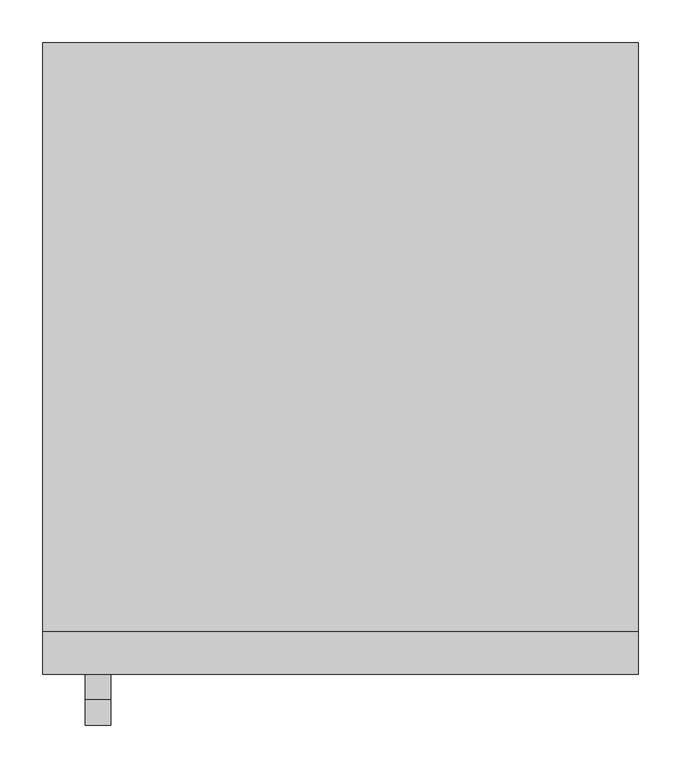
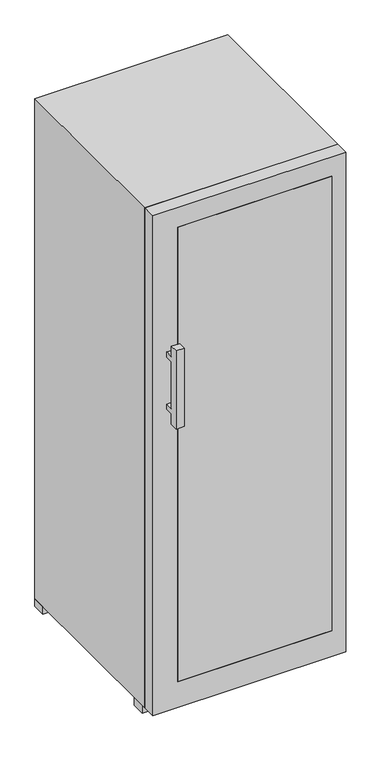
"""IFC4 building model written with IfcOpenShell, lengths in millimetres: proxy geometry, WTes 5972_136 : WTes 5972."""

from ifc_helpers import new_model, si_unit, point, frame, frame_2d, origin, place, context, project, spatial, polyline, circle_curve, trimmed, segment, composite_curve, outline, extrude, faceted_brep, source, transform, mapped, element, save


def specialty_equipment_a312c650(model_context):
    return source(origin(), model_context, "Body", "SolidModel", [
        extrude(outline(polyline([(-349.3194708, -79.8345306), (-349.3194708, -107.3345306), (-349.3194708, -721.8345306), (-910.0, -721.8345306), (-910.0, -79.8345306), (-349.3194708, -79.8345306)]), holes=[polyline([(-820.0080455, -107.3345306), (-880.0, -107.3345306), (-880.0, -700.5304175), (-845.0080455, -700.5304175), (-820.0080455, -700.5304175), (-820.0080455, -107.3345306)]), polyline([(-804.3194708, -700.5304175), (-740.0080455, -700.5304175), (-740.0080455, -107.3345306), (-804.3194708, -107.3345306), (-804.3194708, -700.5304175)]), polyline([(-724.3194708, -700.5304175), (-660.0080455, -700.5304175), (-660.0080455, -107.3345306), (-724.3194708, -107.3345306), (-724.3194708, -700.5304175)]), polyline([(-644.3194708, -700.5304175), (-575.0080455, -700.5304175), (-575.0080455, -107.3345306), (-644.3194708, -107.3345306), (-644.3194708, -700.5304175)]), polyline([(-379.3194708, -107.3345306), (-476.8194708, -107.3345306), (-476.8194708, -700.5304175), (-454.5302256, -700.5304175), (-379.3194708, -700.5304175), (-379.3194708, -107.3345306)]), polyline([(-559.3194708, -700.5304175), (-492.5080455, -700.5304175), (-492.5080455, -107.3345306), (-559.3194708, -107.3345306), (-559.3194708, -700.5304175)])]), frame((0.0, 0.0, 986.7540054), z_axis=(0.0, 0.0, 1.0), x_axis=(1.0, 0.0, 0.0)), (0.0, 0.0, 1.0), 21.7895763),
        extrude(outline(polyline([(-349.3194708, -79.8345306), (-349.3194708, -107.3345306), (-349.3194708, -721.8345306), (-910.0, -721.8345306), (-910.0, -79.8345306), (-349.3194708, -79.8345306)]), holes=[polyline([(-820.0080455, -107.3345306), (-880.0, -107.3345306), (-880.0, -700.5304175), (-845.0080455, -700.5304175), (-820.0080455, -700.5304175), (-820.0080455, -107.3345306)]), polyline([(-804.3194708, -700.5304175), (-740.0080455, -700.5304175), (-740.0080455, -107.3345306), (-804.3194708, -107.3345306), (-804.3194708, -700.5304175)]), polyline([(-724.3194708, -700.5304175), (-660.0080455, -700.5304175), (-660.0080455, -107.3345306), (-724.3194708, -107.3345306), (-724.3194708, -700.5304175)]), polyline([(-644.3194708, -700.5304175), (-575.0080455, -700.5304175), (-575.0080455, -107.3345306), (-644.3194708, -107.3345306), (-644.3194708, -700.5304175)]), polyline([(-379.3194708, -107.3345306), (-476.8194708, -107.3345306), (-476.8194708, -700.5304175), (-454.5302256, -700.5304175), (-379.3194708, -700.5304175), (-379.3194708, -107.3345306)]), polyline([(-559.3194708, -700.5304175), (-492.5080455, -700.5304175), (-492.5080455, -107.3345306), (-559.3194708, -107.3345306), (-559.3194708, -700.5304175)])]), frame((0.0, 0.0, 841.7540054), z_axis=(0.0, 0.0, 1.0), x_axis=(1.0, 0.0, 0.0)), (0.0, 0.0, 1.0), 21.7895763),
        extrude(outline(polyline([(-349.3194708, -79.8345306), (-349.3194708, -107.3345306), (-349.3194708, -721.8345306), (-910.0, -721.8345306), (-910.0, -79.8345306), (-349.3194708, -79.8345306)]), holes=[polyline([(-820.0080455, -107.3345306), (-880.0, -107.3345306), (-880.0, -700.5304175), (-845.0080455, -700.5304175), (-820.0080455, -700.5304175), (-820.0080455, -107.3345306)]), polyline([(-804.3194708, -700.5304175), (-740.0080455, -700.5304175), (-740.0080455, -107.3345306), (-804.3194708, -107.3345306), (-804.3194708, -700.5304175)]), polyline([(-724.3194708, -700.5304175), (-660.0080455, -700.5304175), (-660.0080455, -107.3345306), (-724.3194708, -107.3345306), (-724.3194708, -700.5304175)]), polyline([(-644.3194708, -700.5304175), (-575.0080455, -700.5304175), (-575.0080455, -107.3345306), (-644.3194708, -107.3345306), (-644.3194708, -700.5304175)]), polyline([(-379.3194708, -107.3345306), (-476.8194708, -107.3345306), (-476.8194708, -700.5304175), (-454.5302256, -700.5304175), (-379.3194708, -700.5304175), (-379.3194708, -107.3345306)]), polyline([(-559.3194708, -700.5304175), (-492.5080455, -700.5304175), (-492.5080455, -107.3345306), (-559.3194708, -107.3345306), (-559.3194708, -700.5304175)])]), frame((0.0, 0.0, 651.7540054), z_axis=(0.0, 0.0, 1.0), x_axis=(1.0, 0.0, 0.0)), (0.0, 0.0, 1.0), 21.7895763),
        extrude(outline(polyline([(-349.3194708, -79.8345306), (-349.3194708, -107.3345306), (-349.3194708, -721.8345306), (-910.0, -721.8345306), (-910.0, -79.8345306), (-349.3194708, -79.8345306)]), holes=[polyline([(-820.0080455, -107.3345306), (-880.0, -107.3345306), (-880.0, -700.5304175), (-845.0080455, -700.5304175), (-820.0080455, -700.5304175), (-820.0080455, -107.3345306)]), polyline([(-804.3194708, -700.5304175), (-740.0080455, -700.5304175), (-740.0080455, -107.3345306), (-804.3194708, -107.3345306), (-804.3194708, -700.5304175)]), polyline([(-724.3194708, -700.5304175), (-660.0080455, -700.5304175), (-660.0080455, -107.3345306), (-724.3194708, -107.3345306), (-724.3194708, -700.5304175)]), polyline([(-644.3194708, -700.5304175), (-575.0080455, -700.5304175), (-575.0080455, -107.3345306), (-644.3194708, -107.3345306), (-644.3194708, -700.5304175)]), polyline([(-379.3194708, -107.3345306), (-476.8194708, -107.3345306), (-476.8194708, -700.5304175), (-454.5302256, -700.5304175), (-379.3194708, -700.5304175), (-379.3194708, -107.3345306)]), polyline([(-559.3194708, -700.5304175), (-492.5080455, -700.5304175), (-492.5080455, -107.3345306), (-559.3194708, -107.3345306), (-559.3194708, -700.5304175)])]), frame((0.0, 0.0, 171.7540054), z_axis=(0.0, 0.0, 1.0), x_axis=(1.0, 0.0, 0.0)), (0.0, 0.0, 1.0), 21.7895763),
        extrude(outline(polyline([(-349.3194708, -79.8345306), (-349.3194708, -107.3345306), (-349.3194708, -721.8345306), (-910.0, -721.8345306), (-910.0, -79.8345306), (-349.3194708, -79.8345306)]), holes=[polyline([(-820.0080455, -107.3345306), (-880.0, -107.3345306), (-880.0, -700.5304175), (-845.0080455, -700.5304175), (-820.0080455, -700.5304175), (-820.0080455, -107.3345306)]), polyline([(-804.3194708, -700.5304175), (-740.0080455, -700.5304175), (-740.0080455, -107.3345306), (-804.3194708, -107.3345306), (-804.3194708, -700.5304175)]), polyline([(-724.3194708, -700.5304175), (-660.0080455, -700.5304175), (-660.0080455, -107.3345306), (-724.3194708, -107.3345306), (-724.3194708, -700.5304175)]), polyline([(-644.3194708, -700.5304175), (-575.0080455, -700.5304175), (-575.0080455, -107.3345306), (-644.3194708, -107.3345306), (-644.3194708, -700.5304175)]), polyline([(-379.3194708, -107.3345306), (-476.8194708, -107.3345306), (-476.8194708, -700.5304175), (-454.5302256, -700.5304175), (-379.3194708, -700.5304175), (-379.3194708, -107.3345306)]), polyline([(-559.3194708, -700.5304175), (-492.5080455, -700.5304175), (-492.5080455, -107.3345306), (-559.3194708, -107.3345306), (-559.3194708, -700.5304175)])]), frame((0.0, 0.0, 11.7540054), z_axis=(0.0, 0.0, 1.0), x_axis=(1.0, 0.0, 0.0)), (0.0, 0.0, 1.0), 21.7895763),
        extrude(outline(polyline([(-349.3194708, -79.8345306), (-349.3194708, -107.3345306), (-349.3194708, -721.8345306), (-910.0, -721.8345306), (-910.0, -79.8345306), (-349.3194708, -79.8345306)]), holes=[polyline([(-820.0080455, -107.3345306), (-880.0, -107.3345306), (-880.0, -700.5304175), (-845.0080455, -700.5304175), (-820.0080455, -700.5304175), (-820.0080455, -107.3345306)]), polyline([(-804.3194708, -700.5304175), (-740.0080455, -700.5304175), (-740.0080455, -107.3345306), (-804.3194708, -107.3345306), (-804.3194708, -700.5304175)]), polyline([(-724.3194708, -700.5304175), (-660.0080455, -700.5304175), (-660.0080455, -107.3345306), (-724.3194708, -107.3345306), (-724.3194708, -700.5304175)]), polyline([(-644.3194708, -700.5304175), (-575.0080455, -700.5304175), (-575.0080455, -107.3345306), (-644.3194708, -107.3345306), (-644.3194708, -700.5304175)]), polyline([(-379.3194708, -107.3345306), (-476.8194708, -107.3345306), (-476.8194708, -700.5304175), (-454.5302256, -700.5304175), (-379.3194708, -700.5304175), (-379.3194708, -107.3345306)]), polyline([(-559.3194708, -700.5304175), (-492.5080455, -700.5304175), (-492.5080455, -107.3345306), (-559.3194708, -107.3345306), (-559.3194708, -700.5304175)])]), frame((0.0, 0.0, -168.2459946), z_axis=(0.0, 0.0, 1.0), x_axis=(1.0, 0.0, 0.0)), (0.0, 0.0, 1.0), 21.7895763),
        extrude(outline(polyline([(-349.3194708, -79.8345306), (-349.3194708, -107.3345306), (-349.3194708, -721.8345306), (-910.0, -721.8345306), (-910.0, -79.8345306), (-349.3194708, -79.8345306)]), holes=[polyline([(-820.0080455, -107.3345306), (-880.0, -107.3345306), (-880.0, -700.5304175), (-845.0080455, -700.5304175), (-820.0080455, -700.5304175), (-820.0080455, -107.3345306)]), polyline([(-804.3194708, -700.5304175), (-740.0080455, -700.5304175), (-740.0080455, -107.3345306), (-804.3194708, -107.3345306), (-804.3194708, -700.5304175)]), polyline([(-724.3194708, -700.5304175), (-660.0080455, -700.5304175), (-660.0080455, -107.3345306), (-724.3194708, -107.3345306), (-724.3194708, -700.5304175)]), polyline([(-644.3194708, -700.5304175), (-575.0080455, -700.5304175), (-575.0080455, -107.3345306), (-644.3194708, -107.3345306), (-644.3194708, -700.5304175)]), polyline([(-379.3194708, -107.3345306), (-476.8194708, -107.3345306), (-476.8194708, -700.5304175), (-454.5302256, -700.5304175), (-379.3194708, -700.5304175), (-379.3194708, -107.3345306)]), polyline([(-559.3194708, -700.5304175), (-492.5080455, -700.5304175), (-492.5080455, -107.3345306), (-559.3194708, -107.3345306), (-559.3194708, -700.5304175)])]), frame((0.0, 0.0, -318.2459946), z_axis=(0.0, 0.0, 1.0), x_axis=(1.0, 0.0, 0.0)), (0.0, 0.0, 1.0), 21.7895763),
        extrude(outline(polyline([(-614.0052628, -723.1281118), (-659.0052628, -723.1281118), (-659.0052628, -721.8345306), (-614.0052628, -721.8345306), (-614.0052628, -723.1281118)])), frame((0.0, 0.0, 465.4371416), z_axis=(0.0, 0.0, 1.0), x_axis=(1.0, 0.0, 0.0)), (0.0, 0.0, 1.0), 35.0),
        extrude(outline(composite_curve([segment(trimmed(circle_curve(frame_2d((500.4371416, -748.0875741)), 2.9821857), [point((500.4371416, -751.0697598))], [point((500.4371416, -745.1053884))], False, "CARTESIAN"), True, "CONTINUOUS"), segment(trimmed(circle_curve(frame_2d((500.4371416, -748.0875741)), 2.9821857), [point((500.4371416, -745.1053884))], [point((500.4371416, -751.0697598))], False, "CARTESIAN"), True, "CONTINUOUS")], self_intersect=False)), frame((0.0, -723.1281118, 0.0), z_axis=(0.0, 1.0, 0.0), x_axis=(0.0, 0.0, 1.0)), (0.0, 0.0, 1.0), 1.2935812),
        extrude(outline(composite_curve([segment(trimmed(circle_curve(frame_2d((500.4371416, -733.0875741)), 2.9821857), [point((500.4371416, -736.0697598))], [point((500.4371416, -730.1053884))], False, "CARTESIAN"), True, "CONTINUOUS"), segment(trimmed(circle_curve(frame_2d((500.4371416, -733.0875741)), 2.9821857), [point((500.4371416, -730.1053884))], [point((500.4371416, -736.0697598))], False, "CARTESIAN"), True, "CONTINUOUS")], self_intersect=False)), frame((0.0, -723.1281118, 0.0), z_axis=(0.0, 1.0, 0.0), x_axis=(0.0, 0.0, 1.0)), (0.0, 0.0, 1.0), 1.2935812),
        extrude(outline(composite_curve([segment(trimmed(circle_curve(frame_2d((500.4371416, -718.0875741)), 2.9821857), [point((500.4371416, -721.0697598))], [point((500.4371416, -715.1053884))], False, "CARTESIAN"), True, "CONTINUOUS"), segment(trimmed(circle_curve(frame_2d((500.4371416, -718.0875741)), 2.9821857), [point((500.4371416, -715.1053884))], [point((500.4371416, -721.0697598))], False, "CARTESIAN"), True, "CONTINUOUS")], self_intersect=False)), frame((0.0, -723.1281118, 0.0), z_axis=(0.0, 1.0, 0.0), x_axis=(0.0, 0.0, 1.0)), (0.0, 0.0, 1.0), 1.2935812),
        extrude(outline(composite_curve([segment(trimmed(circle_curve(frame_2d((500.4371416, -703.0875741)), 2.9821857), [point((500.4371416, -706.0697598))], [point((500.4371416, -700.1053884))], False, "CARTESIAN"), True, "CONTINUOUS"), segment(trimmed(circle_curve(frame_2d((500.4371416, -703.0875741)), 2.9821857), [point((500.4371416, -700.1053884))], [point((500.4371416, -706.0697598))], False, "CARTESIAN"), True, "CONTINUOUS")], self_intersect=False)), frame((0.0, -723.1281118, 0.0), z_axis=(0.0, 1.0, 0.0), x_axis=(0.0, 0.0, 1.0)), (0.0, 0.0, 1.0), 1.2935812),
        extrude(outline(composite_curve([segment(trimmed(circle_curve(frame_2d((455.1438088, -579.0505545)), 2.9821857), [point((455.1438088, -582.0327402))], [point((455.1438088, -576.0683688))], False, "CARTESIAN"), True, "CONTINUOUS"), segment(trimmed(circle_curve(frame_2d((455.1438088, -579.0505545)), 2.9821857), [point((455.1438088, -576.0683688))], [point((455.1438088, -582.0327402))], False, "CARTESIAN"), True, "CONTINUOUS")], self_intersect=False)), frame((0.0, -723.1281118, 0.0), z_axis=(0.0, 1.0, 0.0), x_axis=(0.0, 0.0, 1.0)), (0.0, 0.0, 1.0), 1.2935812),
        extrude(outline(composite_curve([segment(trimmed(circle_curve(frame_2d((455.1438088, -564.0505545)), 2.9821857), [point((455.1438088, -567.0327402))], [point((455.1438088, -561.0683688))], False, "CARTESIAN"), True, "CONTINUOUS"), segment(trimmed(circle_curve(frame_2d((455.1438088, -564.0505545)), 2.9821857), [point((455.1438088, -561.0683688))], [point((455.1438088, -567.0327402))], False, "CARTESIAN"), True, "CONTINUOUS")], self_intersect=False)), frame((0.0, -723.1281118, 0.0), z_axis=(0.0, 1.0, 0.0), x_axis=(0.0, 0.0, 1.0)), (0.0, 0.0, 1.0), 1.2935812),
        extrude(outline(composite_curve([segment(trimmed(circle_curve(frame_2d((455.1438088, -549.0505545)), 2.9821857), [point((455.1438088, -552.0327402))], [point((455.1438088, -546.0683688))], False, "CARTESIAN"), True, "CONTINUOUS"), segment(trimmed(circle_curve(frame_2d((455.1438088, -549.0505545)), 2.9821857), [point((455.1438088, -546.0683688))], [point((455.1438088, -552.0327402))], False, "CARTESIAN"), True, "CONTINUOUS")], self_intersect=False)), frame((0.0, -723.1281118, 0.0), z_axis=(0.0, 1.0, 0.0), x_axis=(0.0, 0.0, 1.0)), (0.0, 0.0, 1.0), 1.2935812),
        extrude(outline(composite_curve([segment(trimmed(circle_curve(frame_2d((455.1438088, -534.0505545)), 2.9821857), [point((455.1438088, -537.0327402))], [point((455.1438088, -531.0683688))], False, "CARTESIAN"), True, "CONTINUOUS"), segment(trimmed(circle_curve(frame_2d((455.1438088, -534.0505545)), 2.9821857), [point((455.1438088, -531.0683688))], [point((455.1438088, -537.0327402))], False, "CARTESIAN"), True, "CONTINUOUS")], self_intersect=False)), frame((0.0, -723.1281118, 0.0), z_axis=(0.0, 1.0, 0.0), x_axis=(0.0, 0.0, 1.0)), (0.0, 0.0, 1.0), 1.2935812),
        extrude(outline(polyline([(-832.8794678, -723.1281118), (-902.8794678, -723.1281118), (-902.8794678, -721.8345306), (-832.8794678, -721.8345306), (-832.8794678, -723.1281118)])), frame((0.0, 0.0, 495.4371416), z_axis=(0.0, 0.0, 1.0), x_axis=(1.0, 0.0, 0.0)), (0.0, 0.0, 1.0), 5.0),
        extrude(outline(polyline([(-350.0, -721.8345306), (-910.0, -721.8345306), (-910.0, -79.8345306), (-350.0, -79.8345306), (-350.0, -721.8345306)])), frame((0.0, 0.0, 441.7540054), z_axis=(0.0, 0.0, 1.0), x_axis=(1.0, 0.0, 0.0)), (0.0, 0.0, 1.0), 71.9599962),
        extrude(outline(polyline([(-350.0, -771.8345306), (-910.0, -771.8345306), (-910.0, -721.8345306), (-350.0, -721.8345306), (-350.0, -771.8345306)])), frame((0.0, 0.0, -603.1867483), z_axis=(0.0, 0.0, 1.0), x_axis=(1.0, 0.0, 0.0)), (0.0, 0.0, 1.0), 1745.0),
        extrude(outline(polyline([(1216.8132517, -300.0), (1216.8132517, -1000.0), (-703.1867483, -1000.0), (-703.1867483, -300.0), (1216.8132517, -300.0)]), holes=[polyline([(1141.8132517, -910.0), (1141.8132517, -350.0), (-603.1867483, -350.0), (-603.1867483, -910.0), (1141.8132517, -910.0)])]), frame((0.0, -771.8345306, 0.0), z_axis=(0.0, 1.0, 0.0), x_axis=(0.0, 0.0, 1.0)), (0.0, 0.0, 1.0), 50.0),
        faceted_brep([(-300.0, -721.8345306, 1216.8132517), (-1000.0, -721.8345306, 1216.8132517), (-1000.0, -721.8345306, -703.1867483), (-300.0, -721.8345306, -703.1867483), (-910.0, -721.8345306, 1141.8132517), (-350.0, -721.8345306, 1141.8132517), (-350.0, -721.8345306, -603.1867483), (-910.0, -721.8345306, -603.1867483), (-300.0, -29.8345306, 1216.8132517), (-300.0, -29.8345306, -703.1867483), (-1000.0, -29.8345306, -703.1867483), (-1000.0, -29.8345306, 1216.8132517), (-350.0, -79.8345306, 1141.8132517), (-910.0, -79.8345306, 1141.8132517), (-910.0, -79.8345306, -603.1867483), (-350.0, -79.8345306, -603.1867483)], [[[0, 1, 2, 3], [4, 5, 6, 7]], [[8, 9, 10, 11]], [[1, 0, 8, 11]], [[2, 1, 11, 10]], [[3, 2, 10, 9]], [[0, 3, 9, 8]], [[12, 13, 14, 15]], [[13, 12, 5, 4]], [[14, 13, 4, 7]], [[15, 14, 7, 6]], [[12, 15, 6, 5]]]),
        extrude(outline(polyline([(-300.0, -671.8345306), (-300.0, -721.8345306), (-350.0, -721.8345306), (-350.0, -671.8345306), (-300.0, -671.8345306)])), frame((0.0, 0.0, -733.1867483), z_axis=(0.0, 0.0, 1.0), x_axis=(1.0, 0.0, 0.0)), (0.0, 0.0, 1.0), 30.0),
        extrude(outline(polyline([(-300.0, -29.8345306), (-300.0, -79.8345306), (-350.0, -79.8345306), (-350.0, -29.8345306), (-300.0, -29.8345306)])), frame((0.0, 0.0, -733.1867483), z_axis=(0.0, 0.0, 1.0), x_axis=(1.0, 0.0, 0.0)), (0.0, 0.0, 1.0), 30.0),
        extrude(outline(polyline([(-950.0, -29.8345306), (-950.0, -79.8345306), (-1000.0, -79.8345306), (-1000.0, -29.8345306), (-950.0, -29.8345306)])), frame((0.0, 0.0, -733.1867483), z_axis=(0.0, 0.0, 1.0), x_axis=(1.0, 0.0, 0.0)), (0.0, 0.0, 1.0), 30.0),
        extrude(outline(polyline([(-950.0, -655.0864632), (-950.0, -705.0864632), (-1000.0, -705.0864632), (-1000.0, -655.0864632), (-950.0, -655.0864632)])), frame((0.0, 0.0, -733.1867483), z_axis=(0.0, 0.0, 1.0), x_axis=(1.0, 0.0, 0.0)), (0.0, 0.0, 1.0), 30.0),
        extrude(outline(polyline([(-801.8345306, 676.8132517), (-771.8345306, 676.8132517), (-771.8345306, 656.8132517), (-801.8345306, 656.8132517), (-801.8345306, 476.8132517), (-771.8345306, 476.8132517), (-771.8345306, 456.8132517), (-801.8345306, 456.8132517), (-801.8345306, 416.8132517), (-831.8345306, 416.8132517), (-831.8345306, 716.8132517), (-801.8345306, 716.8132517), (-801.8345306, 676.8132517)])), frame((-950.0, 0.0, 0.0), z_axis=(1.0, 0.0, 0.0), x_axis=(0.0, 1.0, 0.0)), (0.0, 0.0, 1.0), 30.0),
    ])


if __name__ == "__main__":
    model = new_model("IFC4")
    model_context = context("Model", 3, world=origin())
    ifc_project = project(units=[si_unit("LENGTHUNIT", "METRE", prefix="MILLI")], contexts=[model_context])
    site = spatial("IfcSite", under=ifc_project)
    building = spatial("IfcBuilding", under=site)
    placement = place(None, origin())
    specialty_equipment_shape = specialty_equipment_a312c650(model_context)
    element("IfcBuildingElementProxy", 1, Name="WTes 5972_136 : WTes 5972", ObjectType="WTes 5972_136 : WTes 5972", at=placement, inside=building, context=model_context, shape_type="MappedRepresentation", body=[
        mapped(specialty_equipment_shape, transform((0.0, 0.0, 0.0), x_axis=(1.0, 0.0, 0.0), y_axis=(0.0, 1.0, 0.0), z_axis=(0.0, 0.0, 1.0))),
    ])
    save(model, "model.ifc")
